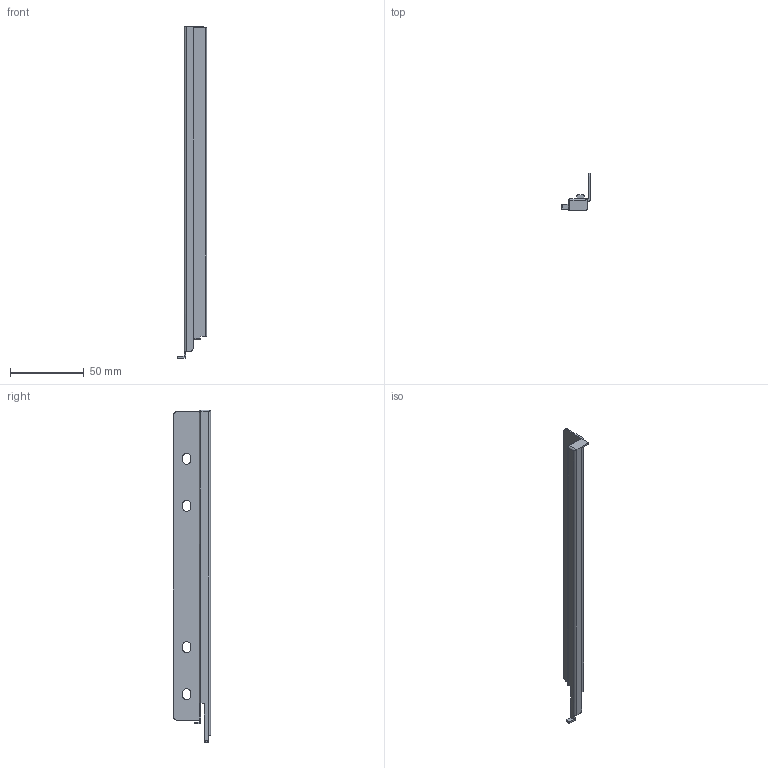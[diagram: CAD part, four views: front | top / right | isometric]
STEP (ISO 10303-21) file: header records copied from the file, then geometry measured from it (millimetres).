
FILE_DESCRIPTION (( 'STEP AP203' ), '1' );
FILE_NAME ('HT14031-R.STEP', '2021-03-16T01:58:58', ( 'Users' ), ( 'Microsoft' ), 'SwSTEP 2.0', 'SolidWorks 2018', '' );
FILE_SCHEMA (( 'CONFIG_CONTROL_DESIGN' ));
Length unit declared in the file: millimetre
Products named in the file (1): HT14031-R
Bounding box: 19.8 x 25.3 x 225.7 mm (x, y, z)
Volume: 10975.8 mm3; surface area: 19090.9 mm2
Topology: 1 solids, 1 shells, 68 faces, 193 edges, 126 vertices
Faces by surface type: plane 36, cylinder 31, bspline 1
Entity records: 2353 total; most frequent: CARTESIAN_POINT 482, ORIENTED_EDGE 384, DIRECTION 368, EDGE_CURVE 192, LINE 128, VECTOR 128, VERTEX_POINT 126, AXIS2_PLACEMENT_3D 120
